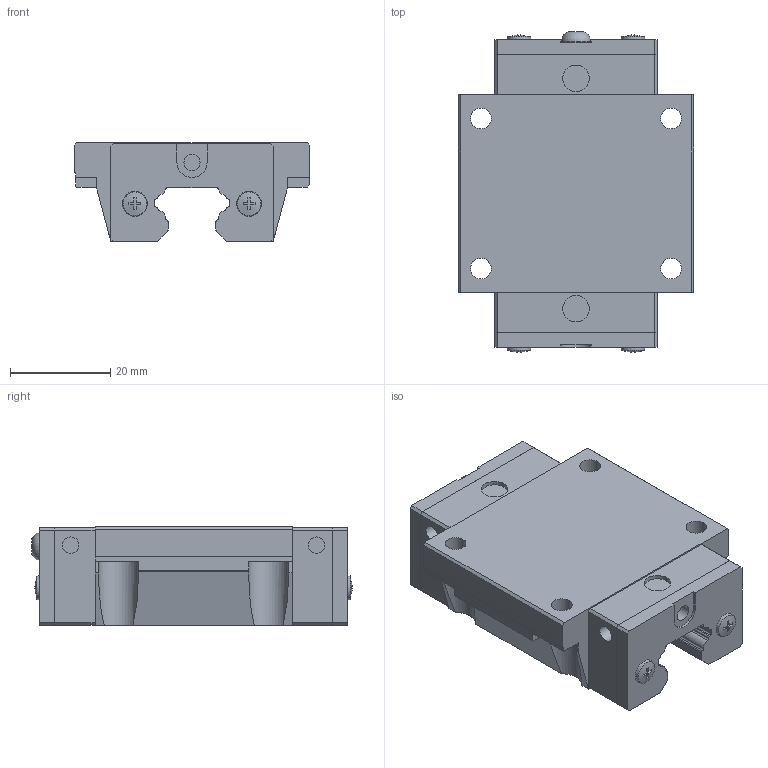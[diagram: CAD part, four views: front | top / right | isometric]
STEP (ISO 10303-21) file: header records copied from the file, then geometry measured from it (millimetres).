
FILE_DESCRIPTION(('STEP AP203'), '1');
FILE_NAME('Ìîäóëü îïîðíûé Hiwin HGW15CCZAH', '', ('UNSPECIFIED'), ('UNSPECIFIED'), 'ASCON STEP Converter 1.6', 'ASCON Math Kernel', '');
FILE_SCHEMA(('CONFIG_CONTROL_DESIGN'));
Length unit declared in the file: millimetre
Bounding box: 47 x 64.1 x 19.7 mm (x, y, z)
Volume: 35855.1 mm3; surface area: 11169.8 mm2
Topology: 1 solids, 4 shells, 260 faces, 698 edges, 462 vertices
Faces by surface type: plane 174, cylinder 75, cone 10, torus 1
Full cylindrical faces by diameter (mm): 2 x2, 2.8 x2, 3.242 x1, 3.3 x4, 4.134 x4, 4.5 x1, 5 x4, 5.3 x2, 5.8 x1
Entity records: 12270 total; most frequent: CARTESIAN_POINT 3773, ORIENTED_EDGE 1328, DIRECTION 1250, EDGE_CURVE 664, VERTEX_POINT 460, LINE 458, VECTOR 458, AXIS2_PLACEMENT_3D 396
